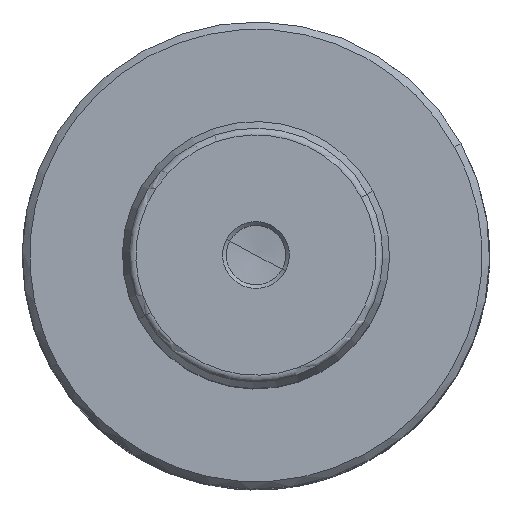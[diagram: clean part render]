
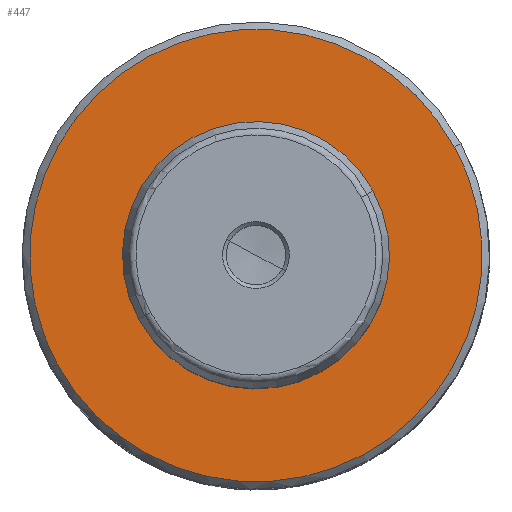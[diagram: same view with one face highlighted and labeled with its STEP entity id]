
A CAD part, top view. The second image highlights one B-rep face of the part: STEP entity #447.
In plain terms, the highlighted planar face has unit normal (0, 0, 1).
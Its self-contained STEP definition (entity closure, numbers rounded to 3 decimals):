
#402 = VERTEX_POINT('',#403);
#403 = CARTESIAN_POINT('',(15.796,8.63,81.));
#411 = VERTEX_POINT('',#412);
#412 = CARTESIAN_POINT('',(-15.796,-8.63,81.));
#418 = EDGE_CURVE('',#411,#402,#419,.T.);
#419 = CIRCLE('',#420,18.);
#420 = AXIS2_PLACEMENT_3D('',#421,#422,#423);
#421 = CARTESIAN_POINT('',(0.,0.,81.));
#422 = DIRECTION('',(0.,0.,1.));
#423 = DIRECTION('',(1.,0.,0.));
#436 = EDGE_CURVE('',#402,#411,#437,.T.);
#437 = CIRCLE('',#438,18.);
#438 = AXIS2_PLACEMENT_3D('',#439,#440,#441);
#439 = CARTESIAN_POINT('',(0.,0.,81.));
#440 = DIRECTION('',(0.,0.,1.));
#441 = DIRECTION('',(1.,0.,0.));
#447 = ADVANCED_FACE('',(#448,#508),#512,.T.);
#448 = FACE_BOUND('',#449,.T.);
#449 = EDGE_LOOP('',(#450,#481));
#450 = ORIENTED_EDGE('',*,*,#451,.T.);
#451 = EDGE_CURVE('',#452,#454,#456,.T.);
#452 = VERTEX_POINT('',#453);
#453 = CARTESIAN_POINT('',(-26.766,-14.622,81.));
#454 = VERTEX_POINT('',#455);
#455 = CARTESIAN_POINT('',(26.766,14.622,81.));
#456 = B_SPLINE_CURVE_WITH_KNOTS('',5,(#457,#458,#459,#460,#461,#462,
    #463,#464,#465,#466,#467,#468,#469,#470,#471,#472,#473,#474,#475,
    #476,#477,#478,#479,#480),.UNSPECIFIED.,.F.,.F.,(6,3,3,3,3,3,3,6),(
    0.,21.044,42.088,63.132,84.176,
    105.22,126.264,135.507),.UNSPECIFIED.);
#457 = CARTESIAN_POINT('',(-26.766,-14.622,81.));
#458 = CARTESIAN_POINT('',(-25.339,-17.234,81.));
#459 = CARTESIAN_POINT('',(-23.594,-19.672,81.));
#460 = CARTESIAN_POINT('',(-21.558,-21.884,81.));
#461 = CARTESIAN_POINT('',(-16.989,-25.766,81.));
#462 = CARTESIAN_POINT('',(-11.62,-28.437,81.));
#463 = CARTESIAN_POINT('',(-8.785,-29.436,81.));
#464 = CARTESIAN_POINT('',(-2.928,-30.724,81.));
#465 = CARTESIAN_POINT('',(3.066,-30.566,81.));
#466 = CARTESIAN_POINT('',(6.039,-30.12,81.));
#467 = CARTESIAN_POINT('',(11.815,-28.512,81.));
#468 = CARTESIAN_POINT('',(17.036,-25.562,81.));
#469 = CARTESIAN_POINT('',(19.453,-23.775,81.));
#470 = CARTESIAN_POINT('',(23.802,-19.647,81.));
#471 = CARTESIAN_POINT('',(27.031,-14.594,81.));
#472 = CARTESIAN_POINT('',(28.328,-11.882,81.));
#473 = CARTESIAN_POINT('',(30.234,-6.197,81.));
#474 = CARTESIAN_POINT('',(30.718,-0.22,81.));
#475 = CARTESIAN_POINT('',(30.593,2.783,81.));
#476 = CARTESIAN_POINT('',(29.887,7.04,81.));
#477 = CARTESIAN_POINT('',(28.459,11.085,81.));
#478 = CARTESIAN_POINT('',(27.958,12.295,81.));
#479 = CARTESIAN_POINT('',(27.393,13.475,81.));
#480 = CARTESIAN_POINT('',(26.766,14.622,81.));
#481 = ORIENTED_EDGE('',*,*,#482,.T.);
#482 = EDGE_CURVE('',#454,#452,#483,.T.);
#483 = B_SPLINE_CURVE_WITH_KNOTS('',5,(#484,#485,#486,#487,#488,#489,
    #490,#491,#492,#493,#494,#495,#496,#497,#498,#499,#500,#501,#502,
    #503,#504,#505,#506,#507),.UNSPECIFIED.,.F.,.F.,(6,3,3,3,3,3,3,6),(
    0.,21.044,42.088,63.132,84.176,
    105.22,126.264,135.507),.UNSPECIFIED.);
#484 = CARTESIAN_POINT('',(26.766,14.622,81.));
#485 = CARTESIAN_POINT('',(25.339,17.234,81.));
#486 = CARTESIAN_POINT('',(23.594,19.672,81.));
#487 = CARTESIAN_POINT('',(21.558,21.884,81.));
#488 = CARTESIAN_POINT('',(16.989,25.766,81.));
#489 = CARTESIAN_POINT('',(11.62,28.437,81.));
#490 = CARTESIAN_POINT('',(8.785,29.436,81.));
#491 = CARTESIAN_POINT('',(2.928,30.724,81.));
#492 = CARTESIAN_POINT('',(-3.066,30.566,81.));
#493 = CARTESIAN_POINT('',(-6.039,30.12,81.));
#494 = CARTESIAN_POINT('',(-11.815,28.512,81.));
#495 = CARTESIAN_POINT('',(-17.036,25.562,81.));
#496 = CARTESIAN_POINT('',(-19.453,23.775,81.));
#497 = CARTESIAN_POINT('',(-23.802,19.647,81.));
#498 = CARTESIAN_POINT('',(-27.031,14.594,81.));
#499 = CARTESIAN_POINT('',(-28.328,11.882,81.));
#500 = CARTESIAN_POINT('',(-30.234,6.197,81.));
#501 = CARTESIAN_POINT('',(-30.718,0.22,81.));
#502 = CARTESIAN_POINT('',(-30.593,-2.783,81.));
#503 = CARTESIAN_POINT('',(-29.887,-7.04,81.));
#504 = CARTESIAN_POINT('',(-28.459,-11.085,81.));
#505 = CARTESIAN_POINT('',(-27.958,-12.295,81.));
#506 = CARTESIAN_POINT('',(-27.393,-13.475,81.));
#507 = CARTESIAN_POINT('',(-26.766,-14.622,81.));
#508 = FACE_BOUND('',#509,.T.);
#509 = EDGE_LOOP('',(#510,#511));
#510 = ORIENTED_EDGE('',*,*,#436,.F.);
#511 = ORIENTED_EDGE('',*,*,#418,.F.);
#512 = PLANE('',#513);
#513 = AXIS2_PLACEMENT_3D('',#514,#515,#516);
#514 = CARTESIAN_POINT('',(30.5,0.,81.));
#515 = DIRECTION('',(0.,0.,1.));
#516 = DIRECTION('',(1.,0.,0.));
